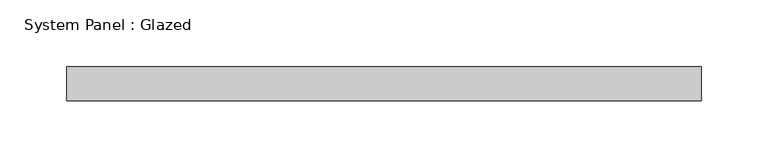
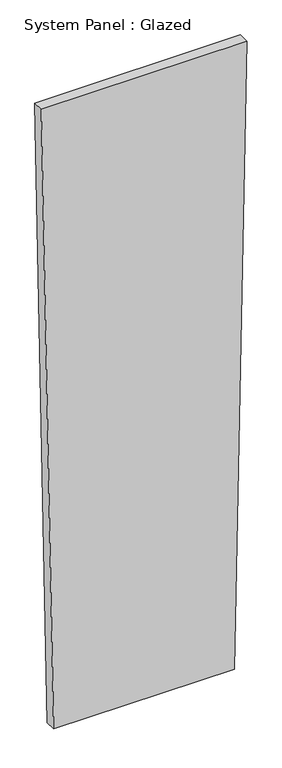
"""IFC4 building model written with IfcOpenShell, lengths in millimetres: plate geometry, System Panel : Glazed."""

from ifc_helpers import new_model, si_unit, frame, origin, place, context, project, spatial, polyline, outline, extrude, source, transform, mapped, element, save


def system_panel_glazed_56afd472(model_context):
    return source(origin(), model_context, "Body", "SweptSolid", [
        extrude(outline(polyline([(0.0, -209.2664077), (0.0, 209.2664077), (1523.7321911, 237.8357952), (1523.7321911, -237.8357952), (0.0, -209.2664077)])), frame((0.0, 19.05, 0.0), z_axis=(0.0, 1.0, 0.0), x_axis=(0.0, 0.0, 1.0)), (0.0, 0.0, 1.0), 25.4),
    ])


if __name__ == "__main__":
    model = new_model("IFC4")
    model_context = context("Model", 3, world=origin())
    ifc_project = project(units=[si_unit("LENGTHUNIT", "METRE", prefix="MILLI")], contexts=[model_context])
    site = spatial("IfcSite", under=ifc_project)
    building = spatial("IfcBuilding", under=site)
    placement = place(None, origin())
    system_panel_glazed_shape = system_panel_glazed_56afd472(model_context)
    element("IfcPlate", 1, ObjectType="System Panel : Glazed", at=placement, inside=building, context=model_context, shape_type="MappedRepresentation", body=[
        mapped(system_panel_glazed_shape, transform((0.0, 0.0, 0.0), x_axis=(1.0, 0.0, 0.0), y_axis=(0.0, 1.0, 0.0), z_axis=(0.0, 0.0, 1.0))),
    ])
    save(model, "model.ifc")
